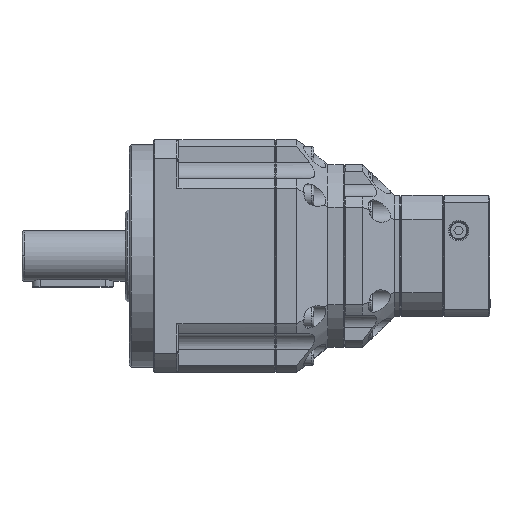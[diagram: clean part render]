
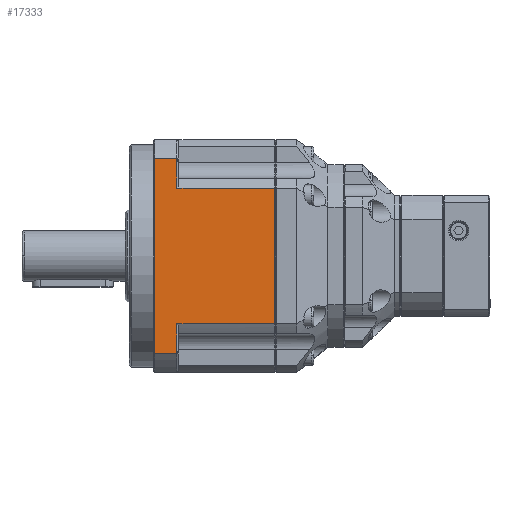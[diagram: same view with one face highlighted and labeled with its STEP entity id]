
A CAD part, left-side view. The second image highlights one B-rep face of the part: STEP entity #17333.
In plain terms, the highlighted planar face has unit normal (1, 0, 0).
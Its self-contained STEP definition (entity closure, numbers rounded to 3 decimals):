
#1657 = ORIENTED_EDGE ( 'NONE', *, *, #34376, .F. ) ;
#8359 = VERTEX_POINT ( 'NONE', #57618 ) ;
#8420 = VERTEX_POINT ( 'NONE', #68538 ) ;
#8552 = DIRECTION ( 'NONE',  ( 0., 0., 1. ) ) ;
#8943 = CARTESIAN_POINT ( 'NONE',  ( -57.5, 24.889, 48.153 ) ) ;
#12020 = DIRECTION ( 'NONE',  ( 0., 0., 1. ) ) ;
#12468 = VERTEX_POINT ( 'NONE', #83301 ) ;
#15340 = VERTEX_POINT ( 'NONE', #58188 ) ;
#16996 = CARTESIAN_POINT ( 'NONE',  ( -57.5, -34.111, 0. ) ) ;
#17333 = ADVANCED_FACE ( 'NONE', ( #39235 ), #78408, .T. ) ;
#18443 = CARTESIAN_POINT ( 'NONE',  ( -57.5, 13.889, 48.153 ) ) ;
#19912 = LINE ( 'NONE', #95607, #106368 ) ;
#20127 = DIRECTION ( 'NONE',  ( 0., 0., -1. ) ) ;
#24235 = LINE ( 'NONE', #25992, #43988 ) ;
#24388 = AXIS2_PLACEMENT_3D ( 'NONE', #103636, #70361, #20127 ) ;
#24544 = LINE ( 'NONE', #36674, #86192 ) ;
#25992 = CARTESIAN_POINT ( 'NONE',  ( -57.5, -4.611, 33.407 ) ) ;
#27717 = CARTESIAN_POINT ( 'NONE',  ( -57.5, 19.389, -48.153 ) ) ;
#33014 = VECTOR ( 'NONE', #48814, 1000. ) ;
#33054 = EDGE_CURVE ( 'NONE', #15340, #12468, #71452, .T. ) ;
#34376 = EDGE_CURVE ( 'NONE', #47680, #57043, #99856, .T. ) ;
#36206 = DIRECTION ( 'NONE',  ( 0., 1., 0. ) ) ;
#36674 = CARTESIAN_POINT ( 'NONE',  ( -57.5, -4.611, -33.407 ) ) ;
#36961 = ORIENTED_EDGE ( 'NONE', *, *, #91814, .F. ) ;
#37435 = CARTESIAN_POINT ( 'NONE',  ( -57.5, 13.889, 0. ) ) ;
#39235 = FACE_OUTER_BOUND ( 'NONE', #95762, .T. ) ;
#43988 = VECTOR ( 'NONE', #93041, 1000. ) ;
#46004 = LINE ( 'NONE', #98146, #90529 ) ;
#47432 = VECTOR ( 'NONE', #8552, 1000. ) ;
#47680 = VERTEX_POINT ( 'NONE', #18443 ) ;
#48023 = DIRECTION ( 'NONE',  ( 0., 0., -1. ) ) ;
#48814 = DIRECTION ( 'NONE',  ( 0., 1., 0. ) ) ;
#49279 = VECTOR ( 'NONE', #62720, 1000. ) ;
#52941 = ORIENTED_EDGE ( 'NONE', *, *, #85251, .F. ) ;
#54820 = LINE ( 'NONE', #27717, #96683 ) ;
#56623 = VERTEX_POINT ( 'NONE', #93022 ) ;
#57043 = VERTEX_POINT ( 'NONE', #8943 ) ;
#57618 = CARTESIAN_POINT ( 'NONE',  ( -57.5, 13.889, 33.407 ) ) ;
#58188 = CARTESIAN_POINT ( 'NONE',  ( -57.5, 13.889, -48.153 ) ) ;
#62720 = DIRECTION ( 'NONE',  ( 0., 0., 1. ) ) ;
#64087 = ORIENTED_EDGE ( 'NONE', *, *, #33054, .F. ) ;
#65631 = CARTESIAN_POINT ( 'NONE',  ( -57.5, -4.611, 48.153 ) ) ;
#66290 = ORIENTED_EDGE ( 'NONE', *, *, #78932, .F. ) ;
#68538 = CARTESIAN_POINT ( 'NONE',  ( -57.5, 24.889, -48.153 ) ) ;
#69610 = ORIENTED_EDGE ( 'NONE', *, *, #90374, .F. ) ;
#70361 = DIRECTION ( 'NONE',  ( 1., 0., 0. ) ) ;
#71315 = ORIENTED_EDGE ( 'NONE', *, *, #92770, .F. ) ;
#71452 = LINE ( 'NONE', #37435, #49279 ) ;
#75889 = CARTESIAN_POINT ( 'NONE',  ( -57.5, -34.111, -33.407 ) ) ;
#78408 = PLANE ( 'NONE',  #24388 ) ;
#78484 = VERTEX_POINT ( 'NONE', #75889 ) ;
#78932 = EDGE_CURVE ( 'NONE', #57043, #8420, #46004, .T. ) ;
#83301 = CARTESIAN_POINT ( 'NONE',  ( -57.5, 13.889, -33.407 ) ) ;
#85251 = EDGE_CURVE ( 'NONE', #8359, #47680, #19912, .T. ) ;
#86192 = VECTOR ( 'NONE', #104311, 1000. ) ;
#90374 = EDGE_CURVE ( 'NONE', #12468, #78484, #24544, .T. ) ;
#90529 = VECTOR ( 'NONE', #48023, 1000. ) ;
#91814 = EDGE_CURVE ( 'NONE', #56623, #8359, #24235, .T. ) ;
#91987 = LINE ( 'NONE', #16996, #47432 ) ;
#92770 = EDGE_CURVE ( 'NONE', #78484, #56623, #91987, .T. ) ;
#93022 = CARTESIAN_POINT ( 'NONE',  ( -57.5, -34.111, 33.407 ) ) ;
#93041 = DIRECTION ( 'NONE',  ( 0., 1., 0. ) ) ;
#95164 = EDGE_CURVE ( 'NONE', #15340, #8420, #54820, .T. ) ;
#95607 = CARTESIAN_POINT ( 'NONE',  ( -57.5, 13.889, 0. ) ) ;
#95762 = EDGE_LOOP ( 'NONE', ( #52941, #36961, #71315, #69610, #64087, #102919, #66290, #1657 ) ) ;
#96683 = VECTOR ( 'NONE', #36206, 1000. ) ;
#98146 = CARTESIAN_POINT ( 'NONE',  ( -57.5, 24.889, 0. ) ) ;
#99856 = LINE ( 'NONE', #65631, #33014 ) ;
#102919 = ORIENTED_EDGE ( 'NONE', *, *, #95164, .T. ) ;
#103636 = CARTESIAN_POINT ( 'NONE',  ( -57.5, -34.111, 48.153 ) ) ;
#104311 = DIRECTION ( 'NONE',  ( 0., -1., 0. ) ) ;
#106368 = VECTOR ( 'NONE', #12020, 1000. ) ;
